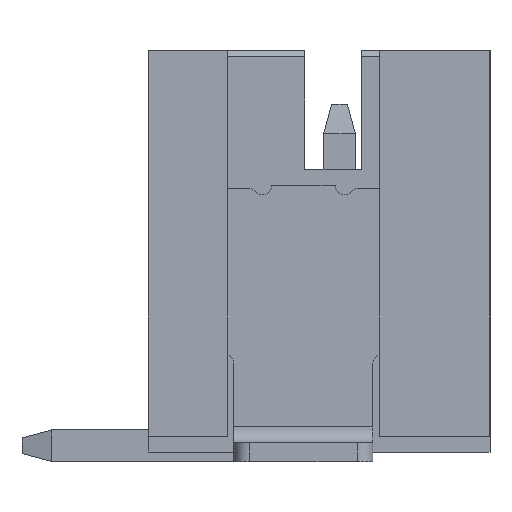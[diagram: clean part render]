
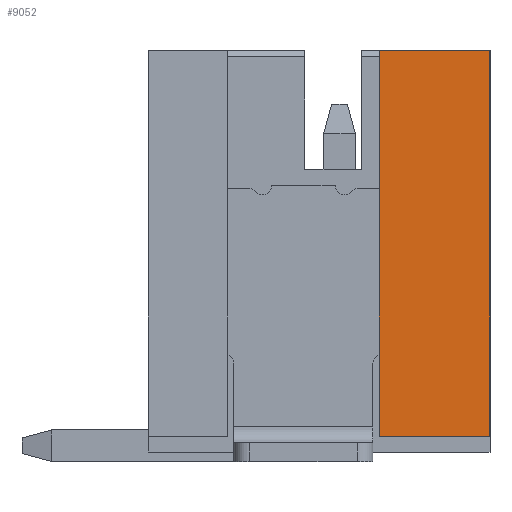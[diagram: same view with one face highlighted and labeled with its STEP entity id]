
A CAD part, left-side view. The second image highlights one B-rep face of the part: STEP entity #9052.
In plain terms, the highlighted planar face has unit normal (-1, 0, 0).
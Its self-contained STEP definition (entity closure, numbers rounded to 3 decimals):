
#13 = DIRECTION ( 'NONE',  ( 0., -1., 0. ) ) ;
#402 = CARTESIAN_POINT ( 'NONE',  ( -4., -0.95, 0.4 ) ) ;
#868 = ORIENTED_EDGE ( 'NONE', *, *, #8196, .F. ) ;
#2382 = CARTESIAN_POINT ( 'NONE',  ( -4., -0.95, 0.15 ) ) ;
#2701 = DIRECTION ( 'NONE',  ( 0., 1., 0. ) ) ;
#2971 = LINE ( 'NONE', #13721, #19972 ) ;
#7406 = CARTESIAN_POINT ( 'NONE',  ( -4., 2.7, 6.5 ) ) ;
#7523 = CARTESIAN_POINT ( 'NONE',  ( -4., -2.7, 6.5 ) ) ;
#8182 = CARTESIAN_POINT ( 'NONE',  ( -4., -0.95, 6.5 ) ) ;
#8196 = EDGE_CURVE ( 'NONE', #12624, #20264, #16396, .T. ) ;
#8642 = EDGE_LOOP ( 'NONE', ( #868, #12738, #11500, #19706 ) ) ;
#8720 = DIRECTION ( 'NONE',  ( 1., 0., 0. ) ) ;
#8868 = VECTOR ( 'NONE', #15639, 1000. ) ;
#9052 = ADVANCED_FACE ( 'NONE', ( #10650 ), #11827, .F. ) ;
#10650 = FACE_OUTER_BOUND ( 'NONE', #8642, .T. ) ;
#11500 = ORIENTED_EDGE ( 'NONE', *, *, #13677, .F. ) ;
#11827 = PLANE ( 'NONE',  #16315 ) ;
#12624 = VERTEX_POINT ( 'NONE', #402 ) ;
#12738 = ORIENTED_EDGE ( 'NONE', *, *, #16483, .T. ) ;
#13677 = EDGE_CURVE ( 'NONE', #16225, #18259, #15292, .T. ) ;
#13695 = LINE ( 'NONE', #18536, #8868 ) ;
#13721 = CARTESIAN_POINT ( 'NONE',  ( -4., 2.7, 0.4 ) ) ;
#13759 = DIRECTION ( 'NONE',  ( 0., 0., -1. ) ) ;
#14796 = CARTESIAN_POINT ( 'NONE',  ( -4., -2.7, 6.5 ) ) ;
#14956 = DIRECTION ( 'NONE',  ( 0., 0., 1. ) ) ;
#15292 = LINE ( 'NONE', #7523, #17314 ) ;
#15639 = DIRECTION ( 'NONE',  ( 0., -1., 0. ) ) ;
#16225 = VERTEX_POINT ( 'NONE', #14796 ) ;
#16315 = AXIS2_PLACEMENT_3D ( 'NONE', #7406, #8720, #2701 ) ;
#16396 = LINE ( 'NONE', #2382, #18028 ) ;
#16483 = EDGE_CURVE ( 'NONE', #12624, #18259, #2971, .T. ) ;
#17314 = VECTOR ( 'NONE', #13759, 1000. ) ;
#17377 = EDGE_CURVE ( 'NONE', #20264, #16225, #13695, .T. ) ;
#18028 = VECTOR ( 'NONE', #14956, 1000. ) ;
#18259 = VERTEX_POINT ( 'NONE', #20109 ) ;
#18536 = CARTESIAN_POINT ( 'NONE',  ( -4., 2.7, 6.5 ) ) ;
#19706 = ORIENTED_EDGE ( 'NONE', *, *, #17377, .F. ) ;
#19972 = VECTOR ( 'NONE', #13, 1000. ) ;
#20109 = CARTESIAN_POINT ( 'NONE',  ( -4., -2.7, 0.4 ) ) ;
#20264 = VERTEX_POINT ( 'NONE', #8182 ) ;
